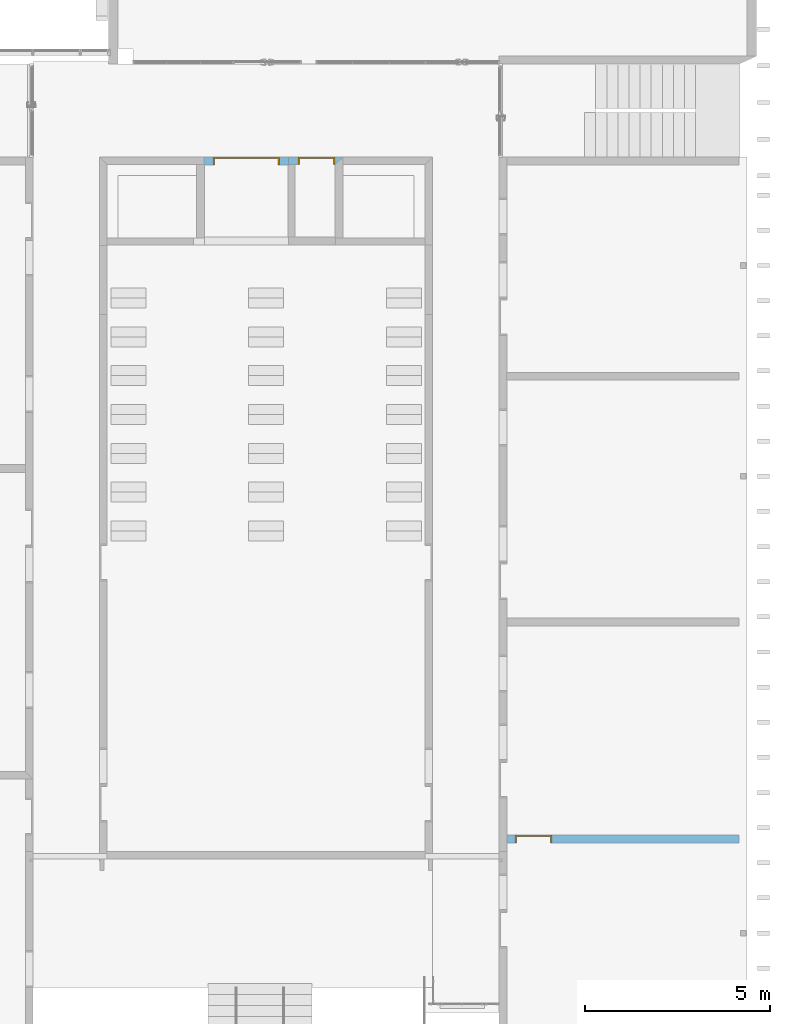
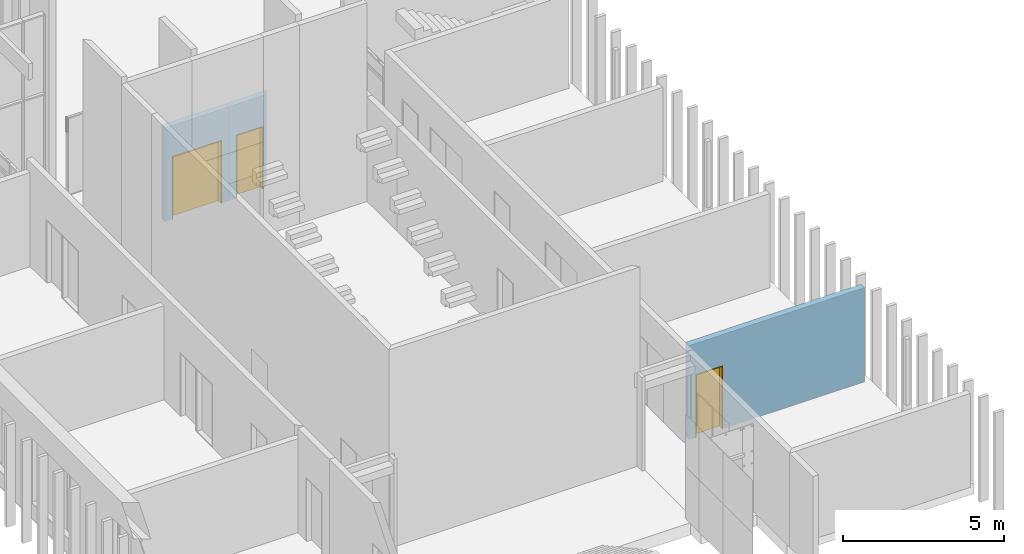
# One storey, part 36 of 62: 3 doors, 3 openings, plus 3 elements that do not belong to this part.
"""IFC2X3 building model written with IfcOpenShell, lengths in millimetres."""

from ifc_helpers import new_model, entity, si_unit, converted_unit, derived_unit, money_unit, direction, frame, origin_with_axes, origin_2d_with_axis, place, context, subcontext, project, spatial, polyline, rectangle, outline, extrude, faceted_brep, material, layer, layer_set, layer_usage, type_object, element, fill, save


model = new_model("IFC2X3")

# Units and contexts
model_context = context("Model", 3, precision=0.01, world=origin_with_axes(), true_north=direction((0.0, 1.0)))
body_context = subcontext(model_context, "Body", "Model", "MODEL_VIEW")
ifc_project = project(units=[si_unit("LENGTHUNIT", "METRE", prefix="MILLI"), si_unit("AREAUNIT", "SQUARE_METRE"), si_unit("VOLUMEUNIT", "CUBIC_METRE"), converted_unit("PLANEANGLEUNIT", "DEGREE", entity("IfcPlaneAngleMeasure", 0.0174532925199), si_unit("PLANEANGLEUNIT", "RADIAN"), dimensions=[0, 0, 0, 0, 0, 0, 0]), si_unit("SOLIDANGLEUNIT", "STERADIAN"), money_unit("EUR"), converted_unit("TIMEUNIT", "Year", entity("IfcTimeMeasure", 31556926.0), si_unit("TIMEUNIT", "SECOND"), dimensions=[0, 0, 1, 0, 0, 0, 0]), si_unit("MASSUNIT", "GRAM", prefix="KILO"), si_unit("THERMODYNAMICTEMPERATUREUNIT", "DEGREE_CELSIUS"), si_unit("LUMINOUSINTENSITYUNIT", "LUMEN"), si_unit("ENERGYUNIT", "JOULE", prefix="MEGA"), derived_unit("THERMALCONDUCTANCEUNIT", [(si_unit("POWERUNIT", "WATT"), 1), (si_unit("LENGTHUNIT", "METRE"), -1), (si_unit("THERMODYNAMICTEMPERATUREUNIT", "KELVIN"), -1)]), derived_unit("SPECIFICHEATCAPACITYUNIT", [(si_unit("ENERGYUNIT", "JOULE"), 1), (si_unit("MASSUNIT", "GRAM", prefix="KILO"), -1), (si_unit("THERMODYNAMICTEMPERATUREUNIT", "KELVIN"), -1)]), derived_unit("MASSDENSITYUNIT", [(si_unit("MASSUNIT", "GRAM", prefix="KILO"), 1), (si_unit("VOLUMEUNIT", "CUBIC_METRE"), -1)])], contexts=[model_context])

# Site, building, storey
site_placement = place(None, origin_with_axes())
site = spatial("IfcSite", under=ifc_project, at=site_placement, Name="Puškini 31, Narva", CompositionType="ELEMENT")
building_placement = place(site_placement, origin_with_axes())
building = spatial("IfcBuilding", under=site, at=building_placement, Name="Narva Riigigümnaasium", CompositionType="ELEMENT")
storey_placement = place(building_placement, frame((0.0, 0.0, 660.0), z_axis=(0.0, 0.0, 1.0), x_axis=(1.0, 0.0, 0.0)))
storey = spatial("IfcBuildingStorey", under=building, at=storey_placement, Name="2.korrus +0.66", CompositionType="ELEMENT", Elevation=660.0)

# Wall, opening, door
ifc_material_1 = material(Name="Betoon element")
ifc_layer_1 = layer(ifc_material_1, 200.0, ventilated="UNKNOWN")
ifc_layer_set_1 = layer_set([ifc_layer_1], Name="G-SS-01")
ifc_layer_usage_1 = layer_usage(ifc_layer_set_1, "AXIS2", "NEGATIVE", 0.0)
wall_type_1 = type_object("IfcWallType", Name="G-SS-01 200", PredefinedType="NOTDEFINED")
wall_1_placement = place(storey_placement, frame((41809.9999994, 221279.999999, 0.0), z_axis=(0.0, 0.0, 1.0), x_axis=(1.0, 0.0, 0.0)))
wall_1 = element("IfcWallStandardCase", 1, at=wall_1_placement, inside=storey, type_object=wall_type_1, material=ifc_layer_usage_1, Name="Sisesein", context=body_context, shape_type="SweptSolid", body=[
    extrude(outline(polyline([(1.33582034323e-09, -200.0), (1255.00000065, -200.0), (1470.00000065, 0.0), (0.0, 0.0), (1.33582034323e-09, -200.0)])), origin_with_axes(), (0.0, 0.0, 1.0), 3555.0),
])
opening_1_placement = place(wall_1_placement, frame((752.220678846, -1.00328634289e-08, 0.0), z_axis=(0.0, 0.0, 1.0), x_axis=(1.0, 0.0, 0.0)))
opening_1 = element("IfcOpeningElement", 2, at=opening_1_placement, cuts=wall_1, Name="G-SU-079", context=body_context, shape_type="SweptSolid", body=[
    extrude(rectangle(XDim=1000.0, YDim=2400.0, at=origin_2d_with_axis()), frame((0.0, -200.0, 1200.0), z_axis=(0.0, 1.0, 0.0), x_axis=(1.0, 0.0, 0.0)), (0.0, 0.0, 1.0), 600.0),
])
door_style_1 = type_object("IfcDoorStyle", Name="Door 23", ConstructionType="NOTDEFINED", OperationType="SINGLE_SWING_RIGHT", ParameterTakesPrecedence=False, Sizeable=False)
door_1_placement = place(opening_1_placement, frame((-500.0, 6.67910171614e-09, 0.0), z_axis=(0.0, 0.0, 1.0), x_axis=(1.0, 0.0, 0.0)))
door_1 = element("IfcDoor", 3, at=door_1_placement, inside=storey, type_object=door_style_1, Name="G-SU-079", ObjectType="DOOR", OverallHeight=2400.0, OverallWidth=1000.0, context=body_context, shape_type="Brep", body=[
    faceted_brep([(-2.67164068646e-09, 3.35376171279e-09, 0.0), (39.9999999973, 3.89377419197e-09, 0.0), (40.0, -199.999999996, 0.0), (0.0, -199.999999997, 0.0), (-2.67164068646e-09, 3.35376171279e-09, 2360.0), (39.9999999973, 3.89377419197e-09, 2360.0), (40.0, -199.999999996, 2360.0), (0.0, -199.999999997, 2360.0)], [[[0, 1, 2, 3]], [[0, 4, 5, 1]], [[1, 5, 6, 2]], [[3, 2, 6, 7]], [[4, 0, 3, 7]], [[5, 4, 7, 6]]]),
    faceted_brep([(999.999999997, 1.67119651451e-08, 0.0), (999.999999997, 1.67119651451e-08, 2360.0), (1000.0, -199.999999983, 2360.0), (1000.0, -199.999999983, 0.0), (959.999999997, 1.61719526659e-08, 0.0), (959.999999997, 1.61719526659e-08, 2360.0), (960.0, -199.999999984, 2360.0), (960.0, -199.999999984, 0.0)], [[[0, 1, 2, 3]], [[0, 4, 5, 1]], [[1, 5, 6, 2]], [[3, 2, 6, 7]], [[4, 0, 3, 7]], [[5, 4, 7, 6]]]),
    faceted_brep([(-2.67164068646e-09, 3.35376171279e-09, 2400.0), (-2.67164068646e-09, 3.35376171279e-09, 2360.0), (0.0, -199.999999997, 2360.0), (0.0, -199.999999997, 2400.0), (999.999999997, 1.67119651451e-08, 2400.0), (999.999999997, 1.67119651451e-08, 2360.0), (959.999999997, 1.61719526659e-08, 2360.0), (39.9999999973, 3.89377419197e-09, 2360.0), (40.0, -199.999999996, 2360.0), (960.0, -199.999999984, 2360.0), (1000.0, -199.999999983, 2360.0), (1000.0, -199.999999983, 2400.0)], [[[0, 1, 2, 3]], [[0, 4, 5, 6, 7, 1]], [[1, 7, 8, 2]], [[3, 2, 8, 9, 10, 11]], [[4, 0, 3, 11]], [[5, 4, 11, 10]], [[6, 5, 10, 9]], [[7, 6, 9, 8]]]),
    faceted_brep([(959.999999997, 1.61719526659e-08, 0.0), (959.999999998, -39.9999999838, 0.0), (39.9999999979, -39.9999999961, 0.0), (39.9999999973, 3.89377419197e-09, 0.0), (959.999999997, 1.61719526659e-08, 2360.0), (959.999999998, -39.9999999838, 2360.0), (39.9999999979, -39.9999999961, 2360.0), (39.9999999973, 3.89377419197e-09, 2360.0)], [[[0, 1, 2, 3]], [[4, 5, 1, 0]], [[1, 5, 6, 2]], [[3, 2, 6, 7]], [[0, 3, 7, 4]], [[7, 6, 5, 4]]]),
])
fill(opening_1, door_1)

ifc_material_2 = material(Name="siseviimistlus-seinad")
ifc_layer_2 = layer(ifc_material_2, 10.0, ventilated="UNKNOWN")
ifc_layer_set_2 = layer_set([ifc_layer_1, ifc_layer_2], Name="G-SS-01-02")
ifc_layer_usage_2 = layer_usage(ifc_layer_set_2, "AXIS2", "NEGATIVE", 0.0)
wall_type_2 = type_object("IfcWallType", Name="G-SS-01-02 210", PredefinedType="NOTDEFINED")
wall_2_placement = place(storey_placement, frame((39519.9999995, 221279.999999, 0.0), z_axis=(0.0, 0.0, 1.0), x_axis=(1.0, 0.0, 0.0)))
wall_2 = element("IfcWallStandardCase", 4, at=wall_2_placement, inside=storey, type_object=wall_type_2, material=ifc_layer_usage_2, Name="Sisesein", context=body_context, shape_type="SweptSolid", body=[
    extrude(outline(polyline([(0.0, -210.0), (2289.99999998, -210.0), (2289.99999998, 0.0), (0.0, 0.0), (0.0, -210.0)])), origin_with_axes(), (0.0, 0.0, 1.0), 3555.0),
])
opening_2_placement = place(wall_2_placement, frame((1144.99999848, 0.0, 0.0), z_axis=(0.0, 0.0, 1.0), x_axis=(1.0, 0.0, 0.0)))
opening_2 = element("IfcOpeningElement", 5, at=opening_2_placement, cuts=wall_2, Name="G-SU-078", context=body_context, shape_type="SweptSolid", body=[
    extrude(rectangle(XDim=1800.00000301, YDim=2400.0, at=origin_2d_with_axis()), frame((0.0, -210.0, 1200.0), z_axis=(0.0, 1.0, 0.0), x_axis=(1.0, 0.0, 0.0)), (0.0, 0.0, 1.0), 630.0),
])
door_style_2 = type_object("IfcDoorStyle", Name="Double Door 23", ConstructionType="NOTDEFINED", OperationType="DOUBLE_DOOR_SINGLE_SWING", ParameterTakesPrecedence=False, Sizeable=False)
door_2_placement = place(opening_2_placement, frame((-900.000001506, 0.0, 0.0), z_axis=(0.0, 0.0, 1.0), x_axis=(1.0, 0.0, 0.0)))
door_2 = element("IfcDoor", 6, at=door_2_placement, inside=storey, type_object=door_style_2, Name="G-SU-078", ObjectType="DOOR", OverallHeight=2400.0, OverallWidth=1800.0, context=body_context, shape_type="Brep", body=[
    faceted_brep([(0.0, 0.0, 0.0), (40.0, 0.0, 0.0), (40.0, -210.0, 0.0), (0.0, -210.0, 0.0), (0.0, 0.0, 2360.0), (40.0, 0.0, 2360.0), (40.0, -210.0, 2360.0), (0.0, -210.0, 2360.0)], [[[0, 1, 2, 3]], [[0, 4, 5, 1]], [[1, 5, 6, 2]], [[3, 2, 6, 7]], [[4, 0, 3, 7]], [[5, 4, 7, 6]]]),
    faceted_brep([(1800.00000301, 0.0, 0.0), (1800.00000301, 0.0, 2360.0), (1800.00000301, -210.0, 2360.0), (1800.00000301, -210.0, 0.0), (1760.00000301, 0.0, 0.0), (1760.00000301, 0.0, 2360.0), (1760.00000301, -210.0, 2360.0), (1760.00000301, -210.0, 0.0)], [[[0, 1, 2, 3]], [[0, 4, 5, 1]], [[1, 5, 6, 2]], [[3, 2, 6, 7]], [[4, 0, 3, 7]], [[5, 4, 7, 6]]]),
    faceted_brep([(0.0, 0.0, 2400.0), (0.0, 0.0, 2360.0), (0.0, -210.0, 2360.0), (0.0, -210.0, 2400.0), (1800.00000301, 0.0, 2400.0), (1800.00000301, 0.0, 2360.0), (1760.00000301, 0.0, 2360.0), (40.0, 0.0, 2360.0), (40.0, -210.0, 2360.0), (1760.00000301, -210.0, 2360.0), (1800.00000301, -210.0, 2360.0), (1800.00000301, -210.0, 2400.0)], [[[0, 1, 2, 3]], [[0, 4, 5, 6, 7, 1]], [[1, 7, 8, 2]], [[3, 2, 8, 9, 10, 11]], [[4, 0, 3, 11]], [[5, 4, 11, 10]], [[6, 5, 10, 9]], [[7, 6, 9, 8]]]),
    faceted_brep([(1760.00000301, 0.0, 0.0), (1760.00000301, -40.0, 0.0), (900.000001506, -40.0, 0.0), (900.000001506, 0.0, 0.0), (1760.00000301, 0.0, 2360.0), (1760.00000301, -40.0, 2360.0), (900.000001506, -40.0, 2360.0), (900.000001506, 0.0, 2360.0)], [[[0, 1, 2, 3]], [[4, 5, 1, 0]], [[1, 5, 6, 2]], [[3, 2, 6, 7]], [[0, 3, 7, 4]], [[7, 6, 5, 4]]]),
    faceted_brep([(40.0, 0.0, 0.0), (900.000001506, 0.0, 0.0), (900.000001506, -40.0, 0.0), (40.0, -40.0, 0.0), (40.0, 0.0, 2360.0), (900.000001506, 0.0, 2360.0), (900.000001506, -40.0, 2360.0), (40.0, -40.0, 2360.0)], [[[0, 1, 2, 3]], [[0, 4, 5, 1]], [[1, 5, 6, 2]], [[3, 2, 6, 7]], [[4, 0, 3, 7]], [[5, 4, 7, 6]]]),
])
fill(opening_2, door_2)

ifc_layer_usage_3 = layer_usage(ifc_layer_set_2, "AXIS2", "POSITIVE", 0.0)
wall_3_placement = place(storey_placement, frame((47499.9999908, 202739.999992, 0.0), z_axis=(0.0, 0.0, 1.0), x_axis=(1.0, 0.0, 0.0)))
wall_3 = element("IfcWallStandardCase", 7, at=wall_3_placement, inside=storey, type_object=wall_type_2, material=ifc_layer_usage_3, Name="Sisesein", context=body_context, shape_type="SweptSolid", body=[
    extrude(outline(polyline([(210.000002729, 0.0), (6489.99999517, 0.0), (6489.99999517, 210.0), (210.000002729, 210.0), (210.000002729, 0.0)])), origin_with_axes(), (0.0, 0.0, 1.0), 3560.0),
])
opening_3_placement = place(wall_3_placement, frame((930.000002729, 0.0, 0.0), z_axis=(0.0, 0.0, 1.0), x_axis=(1.0, 0.0, 0.0)))
opening_3 = element("IfcOpeningElement", 8, at=opening_3_placement, cuts=wall_3, Name="G-SU-076", context=body_context, shape_type="SweptSolid", body=[
    extrude(rectangle(XDim=1000.0, YDim=2400.0, at=origin_2d_with_axis()), frame((0.0, -210.0, 1200.0), z_axis=(0.0, -1.0, 0.0), x_axis=(-1.0, 0.0, 0.0)), (0.0, 0.0, -1.0), 630.0),
])
door_style_3 = type_object("IfcDoorStyle", Name="Door 23", ConstructionType="NOTDEFINED", OperationType="SINGLE_SWING_LEFT", ParameterTakesPrecedence=False, Sizeable=False)
door_3_placement = place(opening_3_placement, frame((-500.0, 0.0, 0.0), z_axis=(0.0, 0.0, 1.0), x_axis=(1.0, 0.0, 0.0)))
door_3 = element("IfcDoor", 9, at=door_3_placement, inside=storey, type_object=door_style_3, Name="G-SU-076", ObjectType="DOOR", OverallHeight=2400.0, OverallWidth=1000.0, context=body_context, shape_type="Brep", body=[
    faceted_brep([(1000.0, 210.0, 0.0), (1000.0, 0.0, 0.0), (960.0, 0.0, 0.0), (960.0, 210.0, 0.0), (1000.0, 210.0, 2360.0), (1000.0, 0.0, 2360.0), (960.0, 0.0, 2360.0), (960.0, 210.0, 2360.0)], [[[0, 1, 2, 3]], [[4, 5, 1, 0]], [[1, 5, 6, 2]], [[3, 2, 6, 7]], [[0, 3, 7, 4]], [[7, 6, 5, 4]]]),
    faceted_brep([(0.0, 210.0, 0.0), (0.0, 0.0, 0.0), (0.0, 0.0, 2360.0), (0.0, 210.0, 2360.0), (40.0, 210.0, 0.0), (40.0, 0.0, 0.0), (40.0, 0.0, 2360.0), (40.0, 210.0, 2360.0)], [[[0, 1, 2, 3]], [[4, 5, 1, 0]], [[1, 5, 6, 2]], [[3, 2, 6, 7]], [[0, 3, 7, 4]], [[7, 6, 5, 4]]]),
    faceted_brep([(1000.0, 210.0, 2400.0), (1000.0, 0.0, 2400.0), (1000.0, 0.0, 2360.0), (1000.0, 210.0, 2360.0), (0.0, 210.0, 2400.0), (0.0, 0.0, 2400.0), (0.0, 0.0, 2360.0), (40.0, 0.0, 2360.0), (960.0, 0.0, 2360.0), (960.0, 210.0, 2360.0), (40.0, 210.0, 2360.0), (0.0, 210.0, 2360.0)], [[[0, 1, 2, 3]], [[4, 5, 1, 0]], [[1, 5, 6, 7, 8, 2]], [[3, 2, 8, 9]], [[0, 3, 9, 10, 11, 4]], [[11, 6, 5, 4]], [[10, 7, 6, 11]], [[9, 8, 7, 10]]]),
    faceted_brep([(40.0, 210.0, 0.0), (960.0, 210.0, 0.0), (960.0, 170.0, 0.0), (40.0, 170.0, 0.0), (40.0, 210.0, 2360.0), (960.0, 210.0, 2360.0), (960.0, 170.0, 2360.0), (40.0, 170.0, 2360.0)], [[[0, 1, 2, 3]], [[0, 4, 5, 1]], [[1, 5, 6, 2]], [[3, 2, 6, 7]], [[4, 0, 3, 7]], [[5, 4, 7, 6]]]),
])
fill(opening_3, door_3)

save(model, "model.ifc")
